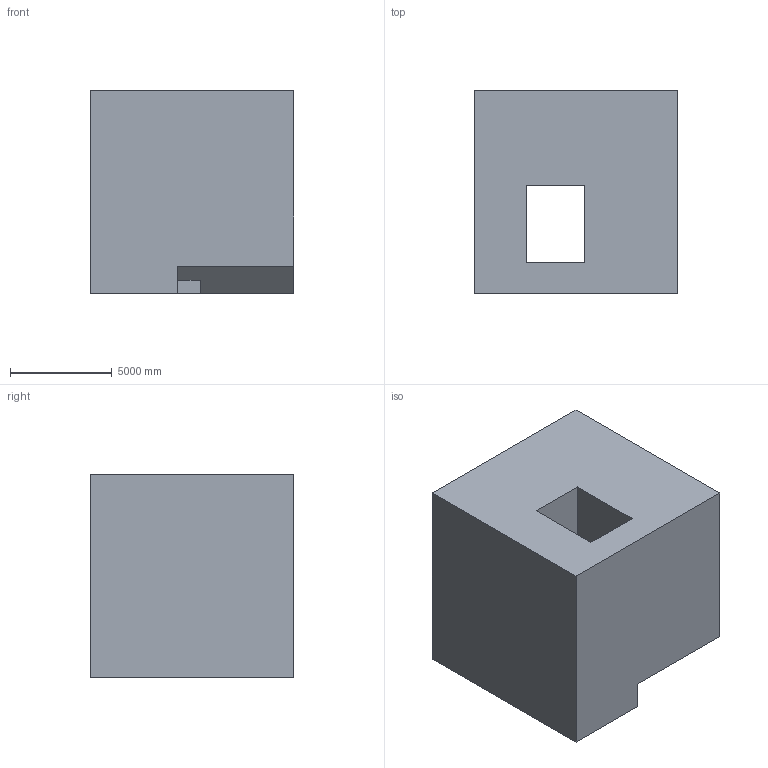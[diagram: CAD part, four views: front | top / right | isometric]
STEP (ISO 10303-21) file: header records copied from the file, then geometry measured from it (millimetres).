
FILE_DESCRIPTION (( 'STEP AP203' ), '1' );
FILE_NAME ('1247.STEP', '2022-08-18T13:22:44', ( 'user' ), ( '' ), 'SwSTEP 2.0', 'SolidWorks 2021', '' );
FILE_SCHEMA (( 'CONFIG_CONTROL_DESIGN' ));
Length unit declared in the file: centimetre
Products named in the file (1): 1247
Bounding box: 10000 x 10000 x 10000 mm (x, y, z)
Volume: 816570842765.9 mm3; surface area: 775737118.4 mm2
Topology: 1 solids, 1 shells, 19 faces, 51 edges, 34 vertices
Faces by surface type: plane 19
Entity records: 666 total; most frequent: CARTESIAN_POINT 105, ORIENTED_EDGE 102, DIRECTION 91, EDGE_CURVE 51, LINE 51, VECTOR 51, VERTEX_POINT 34, EDGE_LOOP 21
